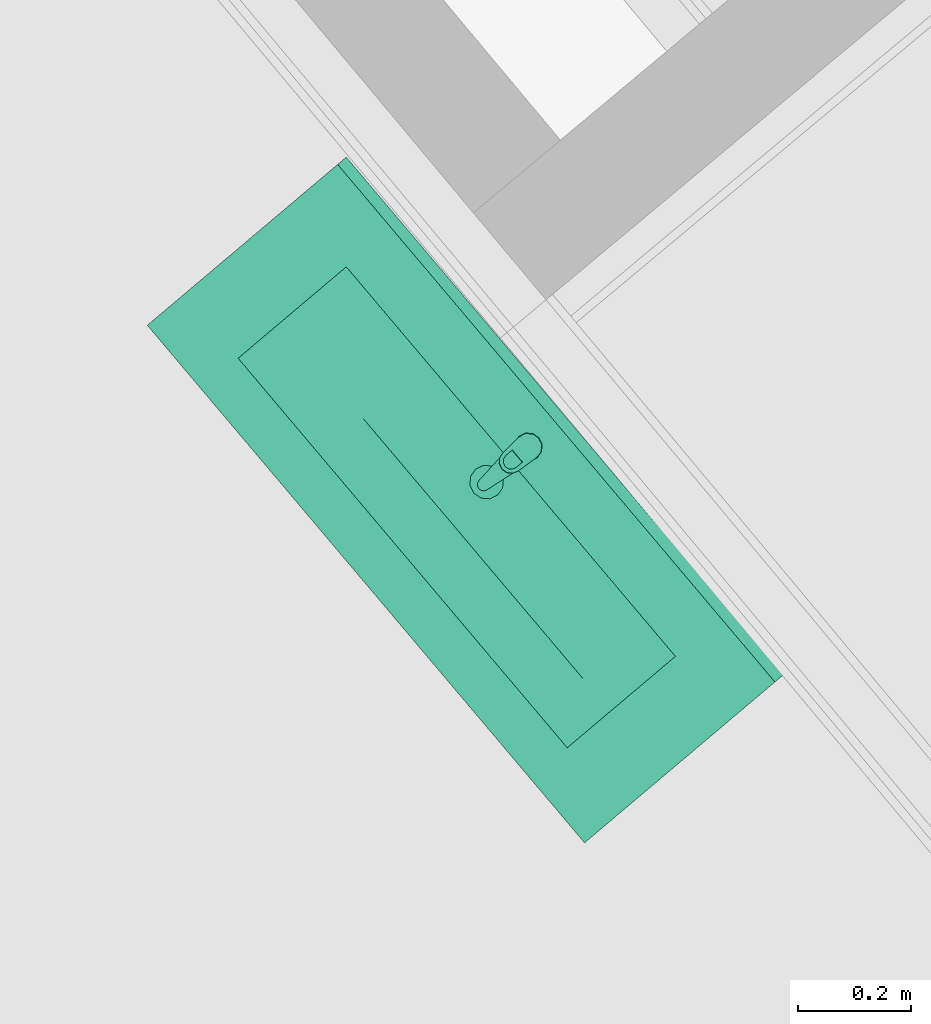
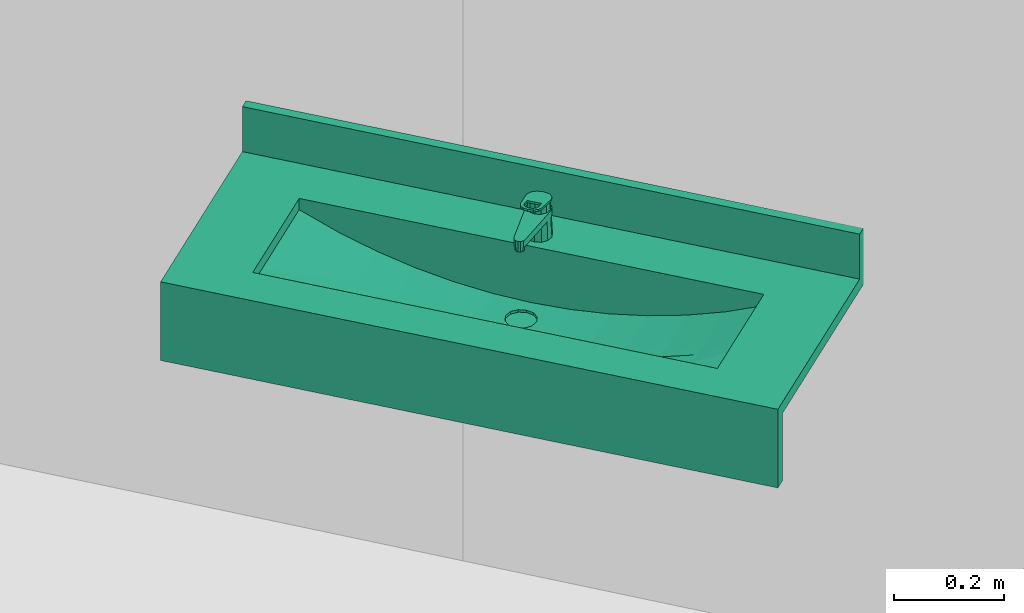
# One storey, part 55 of 61: 1 sanitary terminal.
"""IFC4 building model written with IfcOpenShell, lengths in metres."""

from ifc_helpers import new_model, entity, si_unit, converted_unit, derived_unit, direction, frame, origin_with_axes, place, context, subcontext, project, spatial, polygons, source, transform, mapped, type_object, element, save


model = new_model("IFC4")

# Units and contexts
model_context = context("Model", 3, precision=1e-05, world=origin_with_axes(), true_north=direction((0.0, 1.0)))
body_context = subcontext(model_context, "Body", "Model", "MODEL_VIEW")
ifc_project = project(units=[si_unit("LENGTHUNIT", "METRE"), si_unit("AREAUNIT", "SQUARE_METRE"), si_unit("VOLUMEUNIT", "CUBIC_METRE"), converted_unit("PLANEANGLEUNIT", "DEGREE", entity("IfcPlaneAngleMeasure", 0.0174532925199), si_unit("PLANEANGLEUNIT", "RADIAN"), dimensions=[0, 0, 0, 0, 0, 0, 0]), converted_unit("TIMEUNIT", "Year", entity("IfcTimeMeasure", 31556926.0), si_unit("TIMEUNIT", "SECOND"), dimensions=[0, 0, 1, 0, 0, 0, 0]), si_unit("MASSUNIT", "GRAM", prefix="KILO"), si_unit("THERMODYNAMICTEMPERATUREUNIT", "DEGREE_CELSIUS"), si_unit("LUMINOUSINTENSITYUNIT", "LUMEN"), si_unit("ENERGYUNIT", "JOULE", prefix="MEGA"), derived_unit("THERMALCONDUCTANCEUNIT", [(si_unit("POWERUNIT", "WATT"), 1), (si_unit("LENGTHUNIT", "METRE"), -1), (si_unit("THERMODYNAMICTEMPERATUREUNIT", "KELVIN"), -1)]), derived_unit("SPECIFICHEATCAPACITYUNIT", [(si_unit("ENERGYUNIT", "JOULE"), 1), (si_unit("MASSUNIT", "GRAM", prefix="KILO"), -1), (si_unit("THERMODYNAMICTEMPERATUREUNIT", "KELVIN"), -1)]), derived_unit("MASSDENSITYUNIT", [(si_unit("MASSUNIT", "GRAM", prefix="KILO"), 1), (si_unit("VOLUMEUNIT", "CUBIC_METRE"), -1)])], contexts=[model_context])

# Site, building, storey, space
site_placement = place(None, frame((-0.00153261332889, -0.00661245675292, 0.0), z_axis=(0.0, 0.0, 1.0), x_axis=(1.0, 0.0, 0.0)))
site = spatial("IfcSite", under=ifc_project, at=site_placement, Name="Gelände", CompositionType="ELEMENT")
building_placement = place(site_placement, origin_with_axes())
building = spatial("IfcBuilding", under=site, at=building_placement, Name="Gebäude", CompositionType="ELEMENT")
storey_placement = place(building_placement, frame((0.0, 0.0, 5.7), z_axis=(0.0, 0.0, 1.0), x_axis=(1.0, 0.0, 0.0)))
storey = spatial("IfcBuildingStorey", under=building, at=storey_placement, Name="DG1", CompositionType="ELEMENT", Elevation=5.7)
space_placement = place(storey_placement, frame((-1.0947353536, 21.1038328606, 0.22), z_axis=(0.0, 0.0, 1.0), x_axis=(0.641209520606, -0.767365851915, 0.0)))
space = spatial("IfcSpace", under=storey, at=space_placement, CompositionType="ELEMENT", PredefinedType="NOTDEFINED")

# Sanitary terminal
sanitary_terminal_type = type_object("IfcSanitaryTerminalType", Name="Waschbecken mehrfach 26", PredefinedType="NOTDEFINED")
shared_shape = source(origin_with_axes(), body_context, "Body", "Tessellation", [
    polygons([(-0.597906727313, 0.0, 0.875), (0.597906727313, 0.0, 0.875), (0.597906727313, -0.459810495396, 0.875), (-0.597906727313, -0.459810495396, 0.875), (-0.45, -0.374905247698, 0.875), (0.45, -0.374905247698, 0.875), (0.45, -0.124905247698, 0.875), (-0.45, -0.124905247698, 0.875), (-0.597906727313, 0.0, 0.9), (0.597906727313, 0.0, 0.9), (0.597906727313, -0.459810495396, 0.9), (-0.597906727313, -0.459810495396, 0.9), (-0.45, -0.374905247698, 0.9), (0.45, -0.374905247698, 0.9), (0.45, -0.124905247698, 0.9), (-0.45, -0.124905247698, 0.9)], [[[1, 2, 3, 4], [5, 6, 7, 8]], [[1, 9, 10, 2]], [[2, 10, 11, 3]], [[3, 11, 12, 4]], [[4, 12, 9, 1]], [[13, 14, 6, 5]], [[14, 15, 7, 6]], [[15, 16, 8, 7]], [[16, 13, 5, 8]], [[11, 10, 9, 12], [13, 16, 15, 14]]], closed=True),
    polygons([(-0.597906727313, -0.02, 0.9), (0.597906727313, -0.02, 0.9), (0.597906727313, -0.02, 1.0), (-0.597906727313, -0.02, 1.0), (-0.597906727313, 0.0, 0.9), (0.597906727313, 0.0, 0.9), (0.597906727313, 0.0, 1.0), (-0.597906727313, 0.0, 1.0)], [[[1, 2, 3, 4]], [[1, 5, 6, 2]], [[2, 6, 7, 3]], [[4, 3, 7, 8]], [[5, 1, 4, 8]], [[6, 5, 8, 7]]], closed=True),
    polygons([(-0.597906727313, -0.459810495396, 0.725), (0.597906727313, -0.459810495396, 0.725), (0.597906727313, -0.459810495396, 0.875), (-0.597906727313, -0.459810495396, 0.875), (-0.597906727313, -0.434810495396, 0.725), (0.597906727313, -0.434810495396, 0.725), (0.597906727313, -0.434810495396, 0.875), (-0.597906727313, -0.434810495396, 0.875)], [[[1, 2, 3, 4]], [[1, 5, 6, 2]], [[2, 6, 7, 3]], [[4, 3, 7, 8]], [[5, 1, 4, 8]], [[6, 5, 8, 7]]], closed=True),
    polygons([(0.0, -0.210896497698, 0.775), (-0.015, -0.206877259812, 0.775530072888), (-0.0259807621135, -0.195896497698, 0.775918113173), (-0.03, -0.180896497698, 0.776060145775), (-0.0283946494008, -0.174905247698, 0.776003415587), (-0.075, -0.174905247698, 0.777650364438), (-0.075, -0.224905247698, 0.777650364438), (0.0, -0.224905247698, 0.775), (-0.015, -0.154915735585, 0.775530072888), (0.0, -0.150896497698, 0.775), (0.0, -0.124905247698, 0.775), (-0.075, -0.124905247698, 0.777650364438), (-0.0259807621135, -0.165896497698, 0.775918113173), (-0.15, -0.174905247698, 0.785641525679), (-0.15, -0.224905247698, 0.785641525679), (-0.075, -0.274905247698, 0.787304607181), (0.075, -0.174905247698, 0.777650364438), (0.0283946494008, -0.174905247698, 0.776003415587), (0.03, -0.180896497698, 0.776060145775), (0.0259807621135, -0.195896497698, 0.775918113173), (0.015, -0.206877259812, 0.775530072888), (0.075, -0.224905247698, 0.777650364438), (0.015, -0.154915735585, 0.775530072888), (0.0259807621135, -0.165896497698, 0.775918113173), (0.075, -0.124905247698, 0.777650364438), (0.225, -0.124905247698, 0.799096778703), (0.3, -0.124905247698, 0.818232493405), (0.375, -0.124905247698, 0.843376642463), (0.45, -0.124905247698, 0.875), (-0.45, -0.124905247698, 0.875), (-0.375, -0.124905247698, 0.843376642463), (-0.3, -0.124905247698, 0.818232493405), (-0.225, -0.124905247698, 0.799096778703), (-0.15, -0.124905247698, 0.785641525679), (0.15, -0.124905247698, 0.785641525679), (-0.225, -0.174905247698, 0.799096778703), (-0.225, -0.224905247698, 0.799096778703), (-0.15, -0.274905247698, 0.794561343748), (0.0, -0.274905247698, 0.784895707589), (0.15, -0.224905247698, 0.785641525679), (0.15, -0.174905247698, 0.785641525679), (0.3, -0.174905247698, 0.818232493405), (0.225, -0.174905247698, 0.799096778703), (0.375, -0.174905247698, 0.843376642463), (0.45, -0.174905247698, 0.875), (-0.375, -0.174905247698, 0.843376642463), (-0.45, -0.174905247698, 0.875), (-0.3, -0.174905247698, 0.818232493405), (-0.3, -0.224905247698, 0.818232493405), (-0.225, -0.274905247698, 0.80675793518), (-0.075, -0.324905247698, 0.828130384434), (-0.15, -0.324905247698, 0.832107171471), (0.075, -0.274905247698, 0.787304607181), (0.225, -0.224905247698, 0.799096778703), (0.3, -0.224905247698, 0.818232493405), (0.375, -0.224905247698, 0.843376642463), (0.45, -0.224905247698, 0.875), (0.45, -0.274905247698, 0.875), (0.45, -0.324905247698, 0.875), (0.45, -0.374905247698, 0.875), (-0.45, -0.274905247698, 0.875), (-0.45, -0.224905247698, 0.875), (-0.45, -0.374905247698, 0.875), (-0.45, -0.324905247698, 0.875), (-0.375, -0.224905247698, 0.843376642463), (-0.3, -0.274905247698, 0.824054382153), (-0.225, -0.324905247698, 0.838751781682), (0.0, -0.324905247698, 0.826806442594), (0.15, -0.274905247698, 0.794561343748), (0.225, -0.274905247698, 0.80675793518), (0.3, -0.274905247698, 0.824054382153), (0.375, -0.274905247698, 0.846689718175), (0.375, -0.324905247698, 0.860156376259), (0.375, -0.374905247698, 0.875), (-0.375, -0.324905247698, 0.860156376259), (-0.375, -0.274905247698, 0.846689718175), (-0.3, -0.324905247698, 0.848089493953), (-0.075, -0.374905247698, 0.875), (-0.15, -0.374905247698, 0.875), (-0.225, -0.374905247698, 0.875), (0.075, -0.324905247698, 0.828130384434), (-0.3, -0.374905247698, 0.875), (-0.375, -0.374905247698, 0.875), (0.3, -0.374905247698, 0.875), (0.225, -0.374905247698, 0.875), (0.15, -0.374905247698, 0.875), (0.075, -0.374905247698, 0.875), (0.0, -0.374905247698, 0.875), (0.15, -0.324905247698, 0.832107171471), (0.225, -0.324905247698, 0.838751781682), (0.3, -0.324905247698, 0.848089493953)], [[[1, 2, 3, 4, 5, 6, 7, 8]], [[9, 10, 11, 12, 6, 5, 13]], [[7, 6, 14, 15]], [[16, 8, 7]], [[17, 18, 19, 20, 21, 1, 8, 22]], [[10, 23, 24, 18, 17, 25, 11]], [[26, 27, 28, 29, 30, 31, 32, 33, 34, 12, 11, 25, 35]], [[6, 12, 34, 14]], [[15, 14, 36, 37]], [[38, 7, 15]], [[16, 39, 8]], [[38, 16, 7]], [[39, 22, 8]], [[40, 41, 17, 22]], [[41, 35, 25, 17]], [[42, 27, 26, 43]], [[44, 28, 27, 42]], [[45, 29, 28, 44]], [[46, 31, 30, 47]], [[48, 32, 31, 46]], [[36, 33, 32, 48]], [[14, 34, 33, 36]], [[43, 26, 35, 41]], [[37, 36, 48, 49]], [[50, 15, 37]], [[50, 38, 15]], [[51, 39, 16]], [[52, 16, 38]], [[39, 53, 22]], [[54, 43, 41, 40]], [[53, 40, 22]], [[55, 42, 43, 54]], [[56, 44, 42, 55]], [[57, 58, 59, 60, 29, 45]], [[57, 45, 44, 56]], [[61, 62, 47, 30, 63, 64]], [[65, 46, 47, 62]], [[49, 48, 46, 65]], [[66, 37, 49]], [[66, 50, 37]], [[67, 38, 50]], [[51, 68, 39]], [[52, 51, 16]], [[67, 52, 38]], [[68, 53, 39]], [[69, 54, 40]], [[53, 69, 40]], [[70, 55, 54]], [[71, 56, 55]], [[72, 58, 57]], [[73, 59, 58]], [[74, 60, 59]], [[72, 57, 56]], [[61, 65, 62]], [[63, 75, 64]], [[64, 76, 61]], [[76, 49, 65]], [[76, 66, 49]], [[77, 50, 66]], [[77, 67, 50]], [[78, 68, 51]], [[79, 51, 52]], [[80, 52, 67]], [[68, 81, 53]], [[69, 70, 54]], [[81, 69, 53]], [[70, 71, 55]], [[71, 72, 56]], [[73, 58, 72]], [[74, 59, 73]], [[80, 82, 83, 63, 60, 74, 84, 85, 86, 87, 88, 78, 79]], [[61, 76, 65]], [[63, 83, 75]], [[64, 75, 76]], [[75, 66, 76]], [[75, 77, 66]], [[82, 67, 77]], [[78, 88, 68]], [[79, 78, 51]], [[80, 79, 52]], [[82, 80, 67]], [[88, 81, 68]], [[89, 70, 69]], [[81, 89, 69]], [[90, 71, 70]], [[91, 72, 71]], [[91, 73, 72]], [[84, 74, 73]], [[83, 82, 77]], [[85, 84, 91]], [[86, 85, 90]], [[87, 86, 89]], [[88, 87, 81]], [[83, 77, 75]], [[89, 90, 70]], [[87, 89, 81]], [[90, 91, 71]], [[84, 73, 91]], [[85, 91, 90]], [[86, 90, 89]]], closed=False),
    polygons([(0.03, -0.180896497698, 0.776060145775), (0.0259807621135, -0.195896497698, 0.775918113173), (0.0259807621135, -0.195896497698, 0.77), (0.03, -0.180896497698, 0.77), (0.015, -0.206877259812, 0.775530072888), (0.015, -0.206877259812, 0.77), (0.0, -0.150896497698, 0.77), (0.015, -0.154915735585, 0.77), (0.0259807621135, -0.165896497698, 0.77), (0.0, -0.210896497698, 0.77), (-0.015, -0.206877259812, 0.77), (-0.0259807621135, -0.195896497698, 0.77), (-0.03, -0.180896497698, 0.77), (-0.0259807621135, -0.165896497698, 0.77), (-0.015, -0.154915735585, 0.77), (0.0259807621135, -0.165896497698, 0.775918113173), (0.0, -0.210896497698, 0.775), (0.0, -0.150896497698, 0.775), (0.015, -0.154915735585, 0.775530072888), (-0.015, -0.206877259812, 0.775530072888), (-0.0259807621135, -0.195896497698, 0.775918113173), (-0.03, -0.180896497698, 0.776060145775), (-0.0259807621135, -0.165896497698, 0.775918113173), (-0.015, -0.154915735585, 0.775530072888)], [[[1, 2, 3, 4]], [[2, 5, 6, 3]], [[7, 8, 9, 4, 3, 6, 10, 11, 12, 13, 14, 15]], [[16, 1, 4, 9]], [[5, 17, 10, 6]], [[18, 19, 8, 7]], [[19, 16, 9, 8]], [[17, 20, 11, 10]], [[20, 21, 12, 11]], [[21, 22, 13, 12]], [[22, 23, 14, 13]], [[23, 24, 15, 14]], [[24, 18, 7, 15]]], closed=False),
    polygons([(0.0125, -0.0632546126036, 0.9), (0.0, -0.0599052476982, 0.9), (0.0, -0.0637033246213, 0.975961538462), (0.0105873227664, -0.0665674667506, 0.976507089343), (0.0216506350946, -0.0724052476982, 0.9), (0.025, -0.0849052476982, 0.9), (0.0216506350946, -0.0974052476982, 0.9), (0.0125, -0.106555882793, 0.9), (0.0, -0.109905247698, 0.9), (-0.0125, -0.106555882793, 0.9), (-0.0216506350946, -0.0974052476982, 0.9), (-0.025, -0.0849052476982, 0.9), (-0.0216506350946, -0.0724052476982, 0.9), (-0.0125, -0.0632546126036, 0.9), (-0.0105873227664, -0.0665674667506, 0.976507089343), (-0.0182735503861, -0.0743550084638, 0.977990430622), (-0.021, -0.0849052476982, 0.98), (-0.0181003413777, -0.095355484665, 0.981990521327), (-0.0104141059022, -0.102943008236, 0.983435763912), (0.0, -0.105707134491, 0.983962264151), (0.0104141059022, -0.102943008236, 0.983435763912), (0.0181003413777, -0.095355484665, 0.981990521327), (0.021, -0.0849052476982, 0.98), (0.0182735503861, -0.0743550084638, 0.977990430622)], [[[1, 2, 3, 4]], [[1, 5, 6, 7, 8, 9, 10, 11, 12, 13, 14, 2]], [[2, 14, 15, 3]], [[4, 3, 15, 16, 17, 18, 19, 20, 21, 22, 23, 24]], [[5, 1, 4, 24]], [[6, 5, 24, 23]], [[7, 6, 23, 22]], [[8, 7, 22, 21]], [[9, 8, 21, 20]], [[10, 9, 20, 19]], [[11, 10, 19, 18]], [[12, 11, 18, 17]], [[13, 12, 17, 16]], [[14, 13, 16, 15]]], closed=True),
    polygons([(0.009, -0.187905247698, 0.935), (0.00779422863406, -0.183405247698, 0.935), (0.00779422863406, -0.183405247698, 0.945), (0.009, -0.187905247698, 0.945), (0.00779422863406, -0.192405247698, 0.935), (0.0045, -0.195699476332, 0.935), (0.0, -0.196905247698, 0.935), (-0.0045, -0.195699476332, 0.935), (-0.00779422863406, -0.192405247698, 0.935), (-0.009, -0.187905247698, 0.935), (-0.00779422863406, -0.183405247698, 0.935), (-0.0045, -0.180111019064, 0.935), (0.0, -0.178905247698, 0.935), (0.0045, -0.180111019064, 0.935), (0.0045, -0.180111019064, 0.945), (0.0, -0.178905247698, 0.945), (-0.0045, -0.180111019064, 0.945), (-0.00779422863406, -0.183405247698, 0.945), (-0.009, -0.187905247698, 0.945), (-0.00779422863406, -0.192405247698, 0.945), (-0.0045, -0.195699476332, 0.945), (0.0, -0.196905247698, 0.945), (0.0045, -0.195699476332, 0.945), (0.00779422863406, -0.192405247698, 0.945)], [[[1, 2, 3, 4]], [[1, 5, 6, 7, 8, 9, 10, 11, 12, 13, 14, 2]], [[2, 14, 15, 3]], [[4, 3, 15, 16, 17, 18, 19, 20, 21, 22, 23, 24]], [[5, 1, 4, 24]], [[6, 5, 24, 23]], [[7, 6, 23, 22]], [[8, 7, 22, 21]], [[9, 8, 21, 20]], [[10, 9, 20, 19]], [[11, 10, 19, 18]], [[12, 11, 18, 17]], [[13, 12, 17, 16]], [[14, 13, 16, 15]]], closed=True),
    polygons([(-0.0128717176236, -0.0646489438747, 0.96), (-0.021727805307, -0.0747120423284, 0.96), (-0.0238054, -0.0879551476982, 0.96), (-0.010911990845, -0.189293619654, 0.96), (-0.00902887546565, -0.194188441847, 0.96), (-0.00509332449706, -0.197654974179, 0.96), (3.62679860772e-08, -0.198905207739, 0.96), (0.00509338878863, -0.197654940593, 0.96), (0.00902891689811, -0.194188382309, 0.96), (0.010912, -0.189293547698, 0.96), (0.0238053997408, -0.0879551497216, 0.96), (0.0217278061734, -0.0747120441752, 0.96), (0.0128717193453, -0.0646489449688, 0.96), (1.01998896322e-09, -0.0609052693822, 0.96), (0.011, -0.0658526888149, 0.96), (0.0190525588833, -0.0739052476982, 0.96), (0.022, -0.0849052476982, 0.96), (0.0190525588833, -0.0959052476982, 0.96), (0.011, -0.103957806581, 0.96), (0.0, -0.106905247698, 0.96), (-0.011, -0.103957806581, 0.96), (-0.0190525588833, -0.0959052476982, 0.96), (-0.022, -0.0849052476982, 0.96), (-0.0190525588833, -0.0739052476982, 0.96), (-0.011, -0.0658526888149, 0.96), (0.0, -0.0629052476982, 0.96), (-0.021727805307, -0.0747120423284, 0.945), (-0.0128717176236, -0.0646489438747, 0.945), (-0.0238054, -0.0879551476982, 0.945), (-0.010911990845, -0.189293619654, 0.945), (-0.00902887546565, -0.194188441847, 0.945), (-0.00509332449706, -0.197654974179, 0.945), (3.62679860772e-08, -0.198905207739, 0.945), (0.00509338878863, -0.197654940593, 0.945), (0.00902891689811, -0.194188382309, 0.945), (0.010912, -0.189293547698, 0.945), (0.0238053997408, -0.0879551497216, 0.945), (0.0217278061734, -0.0747120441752, 0.945), (0.0128717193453, -0.0646489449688, 0.945), (1.01998896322e-09, -0.0609052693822, 0.945), (0.011375, -0.0652031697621, 0.945), (0.0197020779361, -0.0735302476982, 0.945), (0.02275, -0.0849052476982, 0.945), (0.0197020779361, -0.0962802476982, 0.945), (0.011375, -0.104607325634, 0.945), (0.0, -0.107655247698, 0.945), (-0.011375, -0.104607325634, 0.945), (-0.0197020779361, -0.0962802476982, 0.945), (-0.02275, -0.0849052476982, 0.945), (-0.0197020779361, -0.0735302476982, 0.945), (-0.011375, -0.0652031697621, 0.945), (0.0, -0.0621552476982, 0.945)], [[[1, 2, 3, 4, 5, 6, 7, 8, 9, 10, 11, 12, 13, 14], [15, 16, 17, 18, 19, 20, 21, 22, 23, 24, 25, 26]], [[27, 2, 1, 28]], [[29, 3, 2, 27]], [[30, 4, 3, 29]], [[31, 5, 4, 30]], [[32, 6, 5, 31]], [[33, 7, 6, 32]], [[34, 8, 7, 33]], [[35, 9, 8, 34]], [[36, 10, 9, 35]], [[37, 11, 10, 36]], [[38, 12, 11, 37]], [[39, 13, 12, 38]], [[40, 14, 13, 39]], [[28, 1, 14, 40]], [[41, 42, 16, 15]], [[42, 43, 17, 16]], [[43, 44, 18, 17]], [[44, 45, 19, 18]], [[45, 46, 20, 19]], [[21, 20, 46, 47]], [[22, 21, 47, 48]], [[23, 22, 48, 49]], [[24, 23, 49, 50]], [[25, 24, 50, 51]], [[51, 52, 26, 25]], [[52, 41, 15, 26]], [[33, 32, 31, 30, 29, 27, 28, 40, 39, 38, 37, 36, 35, 34], [45, 44, 43, 42, 41, 52, 51, 50, 49, 48, 47, 46]]], closed=True),
    polygons([(0.023893, -0.0865978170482, 0.980322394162), (0.0212964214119, -0.0741305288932, 0.977947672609), (0.0212964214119, -0.0733820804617, 0.981877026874), (0.023893, -0.0858493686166, 0.984251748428), (0.0209459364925, -0.126741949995, 0.987968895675), (0.0176631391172, -0.13641961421, 0.989812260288), (0.0100614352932, -0.14336899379, 0.991135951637), (-4.42652908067e-07, -0.145890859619, 0.991616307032), (-0.0100622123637, -0.143368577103, 0.991135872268), (-0.0176636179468, -0.136418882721, 0.989812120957), (-0.020946, -0.126741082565, 0.987968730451), (-0.023893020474, -0.0865975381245, 0.980322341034), (-0.0212962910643, -0.0741302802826, 0.977947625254), (-0.0124716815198, -0.0648140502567, 0.976173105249), (1.42337785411e-07, -0.0613732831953, 0.975517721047), (0.0124719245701, -0.0648141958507, 0.976173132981), (0.014, -0.110446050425, 0.984864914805), (-0.014, -0.110446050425, 0.984864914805), (-0.014, -0.125261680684, 0.987686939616), (-0.012124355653, -0.132138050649, 0.988996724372), (-0.007, -0.137171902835, 0.989955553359), (0.0, -0.139014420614, 0.990306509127), (0.007, -0.137171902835, 0.989955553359), (0.012124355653, -0.132138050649, 0.988996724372), (0.014, -0.125261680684, 0.987686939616), (0.0124719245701, -0.0640657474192, 0.980102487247), (1.42337785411e-07, -0.0606248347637, 0.979447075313), (-0.0124716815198, -0.0640656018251, 0.980102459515), (-0.0212962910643, -0.073381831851, 0.98187697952), (-0.023893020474, -0.085849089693, 0.984251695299), (-0.020946, -0.125992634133, 0.991898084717), (-0.0176636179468, -0.13567043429, 0.993741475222), (-0.0100622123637, -0.142620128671, 0.995065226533), (-4.42652908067e-07, -0.145142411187, 0.995545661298), (0.0100614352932, -0.142620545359, 0.995065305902), (0.0176631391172, -0.135671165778, 0.993741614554), (0.0209459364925, -0.125993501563, 0.991898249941), (0.014, -0.109697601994, 0.988794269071), (0.014, -0.124513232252, 0.991616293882), (0.012124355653, -0.131389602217, 0.992926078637), (0.007, -0.136423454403, 0.993884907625), (0.0, -0.138265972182, 0.994235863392), (-0.007, -0.136423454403, 0.993884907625), (-0.012124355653, -0.131389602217, 0.992926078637), (-0.014, -0.124513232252, 0.991616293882), (-0.014, -0.109697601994, 0.988794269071)], [[[1, 2, 3, 4]], [[1, 5, 6, 7, 8, 9, 10, 11, 12, 13, 14, 15, 16, 2], [17, 18, 19, 20, 21, 22, 23, 24, 25]], [[2, 16, 26, 3]], [[4, 3, 26, 27, 28, 29, 30, 31, 32, 33, 34, 35, 36, 37], [38, 39, 40, 41, 42, 43, 44, 45, 46]], [[5, 1, 4, 37]], [[6, 5, 37, 36]], [[7, 6, 36, 35]], [[8, 7, 35, 34]], [[9, 8, 34, 33]], [[10, 9, 33, 32]], [[11, 10, 32, 31]], [[12, 11, 31, 30]], [[13, 12, 30, 29]], [[14, 13, 29, 28]], [[15, 14, 28, 27]], [[16, 15, 27, 26]], [[18, 17, 38, 46]], [[19, 18, 46, 45]], [[20, 19, 45, 44]], [[21, 20, 44, 43]], [[22, 21, 43, 42]], [[23, 22, 42, 41]], [[24, 23, 41, 40]], [[25, 24, 40, 39]], [[17, 25, 39, 38]]], closed=True),
])
sanitary_terminal_placement = place(space_placement, frame((2.08975978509, 1.87960678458, -0.075), z_axis=(0.0, 0.0, 1.0), x_axis=(0.999985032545, 0.00547126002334, 0.0)))
element("IfcSanitaryTerminal", 1, at=sanitary_terminal_placement, inside=space, type_object=sanitary_terminal_type, Name="Objekt-0009", PredefinedType="NOTDEFINED", context=body_context, shape_type="MappedRepresentation", body=[
    mapped(shared_shape, transform((0.0, 0.0, 0.0))),
])

save(model, "model.ifc")
